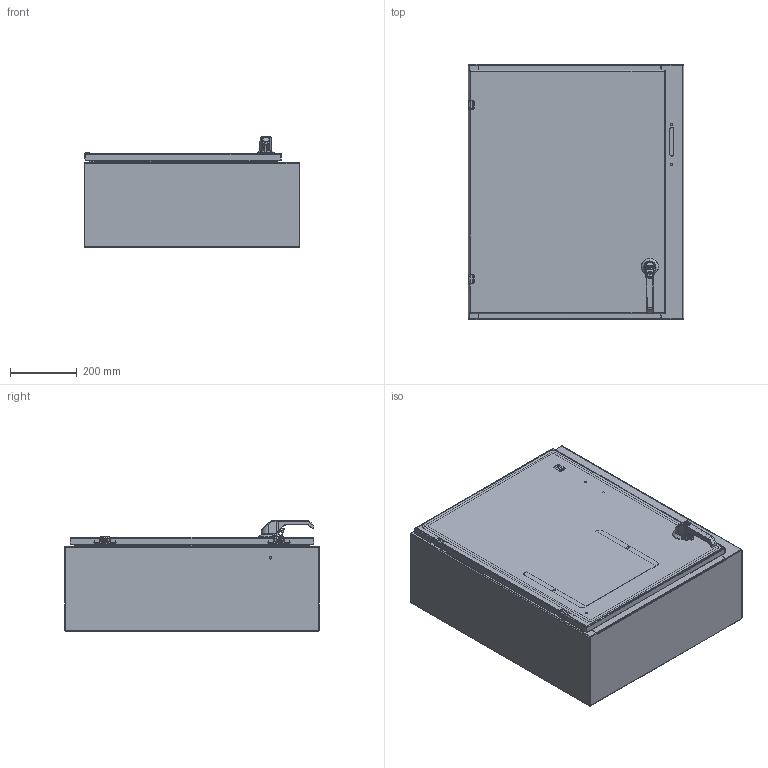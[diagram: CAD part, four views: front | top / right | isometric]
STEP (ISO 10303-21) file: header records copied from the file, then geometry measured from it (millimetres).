
FILE_DESCRIPTION((''),'2;1');
FILE_NAME('MODEL-315_ASM','2021-05-11T13:01:19',('mikek'),('SAGINAW CONTROL & ENGINEERING'),'CREO PARAMETRIC BY PTC INC, 2017260','CREO PARAMETRIC BY PTC INC, 2017260','');
FILE_SCHEMA(('AUTOMOTIVE_DESIGN { 1 0 10303 214 1 1 1 1 }'));
Length unit declared in the file: inch
Products named in the file (48): MODEL-315-BDY; MODEL-315-TP; MODEL-315-BTM; MODEL-315-DR; 100837; 100882; 111267; 100953_HANDLE; 100953_HANDLE_INSERT; 100953_SHAFT_CAM; 100953_ADAPTER_CAM; 100953_NUT_CAM; 100953_BASE; 100953_O-RING; 100953_WASHER_SEALING; 100953_NUT_MOUNTING_LARGE; 100953_NUT_MOUNTING_SMALL; 100953_SCREW_SMALL; 100953_INSERT; 100953_PADLOCK_CATCH; 100953_ASM; 128142; 100030; 128142_ASM; MODEL-315-ROD-UPR; 128146; 128145; 128144; 102482; MODEL-315-ROD-UPR_ASM; 128143; 112504; MODEL-315-POUR-GSKT; 126392; 126397; 126392_ASM; 126395; 102483; 101226; 101389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
Assembly tree (74 placements, depth 4):
  MODEL-315_ASM
    MODEL-315-BDY
    MODEL-315-TP
    MODEL-315-BTM
    MODEL-315-DR-ASSY_ASM
      MODEL-315-DR
      100837  x6
      100882  x3
      111267
      100953_ASM
        100953_HANDLE
        100953_HANDLE_INSERT
        100953_SHAFT_CAM
        100953_ADAPTER_CAM
        100953_NUT_CAM
        100953_BASE
        100953_O-RING
        100953_WASHER_SEALING
        100953_NUT_MOUNTING_LARGE
        100953_NUT_MOUNTING_SMALL
        100953_SCREW_SMALL
        100953_INSERT
        100953_PADLOCK_CATCH
      128142_ASM
        128142
        100030  x2
      MODEL-315-ROD-UPR_ASM
        MODEL-315-ROD-UPR
        128146
        128145
        128144
        102482  x2
      128143
      112504
      MODEL-315-POUR-GSKT
      126392_ASM  x2
        126392
        126397
      126395  x2
      102483  x6
      101226  x2
      101389  x2
      102140  x2
    100837  x2
    101653  x4
    122191
    SUBPANEL-SUBASSEMBLY_ASM
      SUBPANEL
      100904  x4
Bounding box: 644.52 x 762 x 331.13 mm (x, y, z)
Volume: 5393565 mm3; surface area: 4891145.5 mm2
Topology: 68 solids, 68 shells, 5163 faces, 13114 edges, 8095 vertices
Faces by surface type: plane 1796, cylinder 1416, bspline 866, cone 533, torus 398, sphere 154
Entity records: 202549 total; most frequent: CARTESIAN_POINT 70503, ORIENTED_EDGE 19754, DIRECTION 18118, PRESENTATION_STYLE_ASSIGNMENT 10063, STYLED_ITEM 9917, CURVE_STYLE 9877, EDGE_CURVE 9877, AXIS2_PLACEMENT_3D 6795
